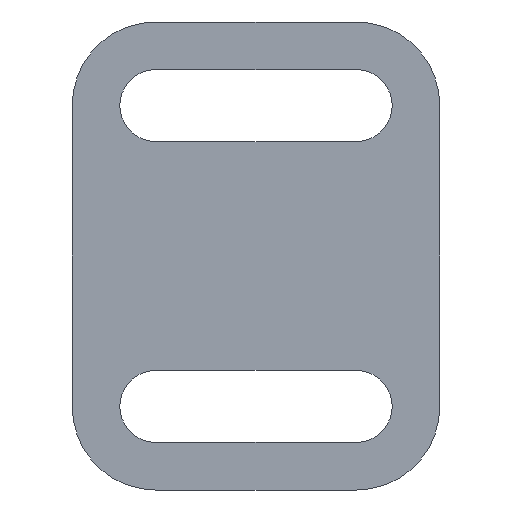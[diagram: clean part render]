
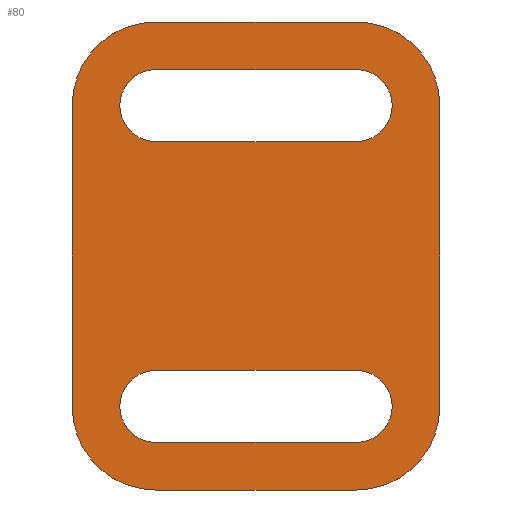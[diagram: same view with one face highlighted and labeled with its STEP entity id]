
A CAD part, front view. The second image highlights one B-rep face of the part: STEP entity #80.
In plain terms, the highlighted planar face has unit normal (0, -1, 0).
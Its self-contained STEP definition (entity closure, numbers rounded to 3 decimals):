
#80 = ADVANCED_FACE( '', ( #117, #118, #119 ), #120, .F. );
#117 = FACE_BOUND( '', #180, .T. );
#118 = FACE_OUTER_BOUND( '', #181, .T. );
#119 = FACE_BOUND( '', #182, .T. );
#120 = PLANE( '', #183 );
#180 = EDGE_LOOP( '', ( #274, #275, #276, #277 ) );
#181 = EDGE_LOOP( '', ( #278, #279, #280, #281, #282, #283, #284, #285 ) );
#182 = EDGE_LOOP( '', ( #286, #287, #288, #289 ) );
#183 = AXIS2_PLACEMENT_3D( '', #290, #291, #292 );
#274 = ORIENTED_EDGE( '', *, *, #481, .T. );
#275 = ORIENTED_EDGE( '', *, *, #482, .T. );
#276 = ORIENTED_EDGE( '', *, *, #483, .T. );
#277 = ORIENTED_EDGE( '', *, *, #484, .T. );
#278 = ORIENTED_EDGE( '', *, *, #485, .F. );
#279 = ORIENTED_EDGE( '', *, *, #486, .F. );
#280 = ORIENTED_EDGE( '', *, *, #487, .F. );
#281 = ORIENTED_EDGE( '', *, *, #488, .F. );
#282 = ORIENTED_EDGE( '', *, *, #489, .F. );
#283 = ORIENTED_EDGE( '', *, *, #490, .F. );
#284 = ORIENTED_EDGE( '', *, *, #467, .F. );
#285 = ORIENTED_EDGE( '', *, *, #491, .F. );
#286 = ORIENTED_EDGE( '', *, *, #492, .T. );
#287 = ORIENTED_EDGE( '', *, *, #493, .T. );
#288 = ORIENTED_EDGE( '', *, *, #494, .T. );
#289 = ORIENTED_EDGE( '', *, *, #495, .T. );
#290 = CARTESIAN_POINT( '', ( 5., 0., -9. ) );
#291 = DIRECTION( '', ( 0., 1., 0. ) );
#292 = DIRECTION( '', ( 0., 0., 1. ) );
#467 = EDGE_CURVE( '', #550, #551, #552, .T. );
#481 = EDGE_CURVE( '', #577, #578, #579, .T. );
#482 = EDGE_CURVE( '', #578, #580, #581, .T. );
#483 = EDGE_CURVE( '', #580, #582, #583, .T. );
#484 = EDGE_CURVE( '', #582, #577, #584, .T. );
#485 = EDGE_CURVE( '', #585, #586, #587, .T. );
#486 = EDGE_CURVE( '', #588, #585, #589, .T. );
#487 = EDGE_CURVE( '', #590, #588, #591, .T. );
#488 = EDGE_CURVE( '', #592, #590, #593, .T. );
#489 = EDGE_CURVE( '', #594, #592, #595, .T. );
#490 = EDGE_CURVE( '', #551, #594, #596, .T. );
#491 = EDGE_CURVE( '', #586, #550, #597, .T. );
#492 = EDGE_CURVE( '', #598, #599, #600, .T. );
#493 = EDGE_CURVE( '', #599, #601, #602, .T. );
#494 = EDGE_CURVE( '', #601, #603, #604, .T. );
#495 = EDGE_CURVE( '', #603, #598, #605, .T. );
#550 = VERTEX_POINT( '', #673 );
#551 = VERTEX_POINT( '', #674 );
#552 = CIRCLE( '', #675, 5. );
#577 = VERTEX_POINT( '', #708 );
#578 = VERTEX_POINT( '', #709 );
#579 = LINE( '', #710, #711 );
#580 = VERTEX_POINT( '', #712 );
#581 = CIRCLE( '', #713, 2.15 );
#582 = VERTEX_POINT( '', #714 );
#583 = LINE( '', #715, #716 );
#584 = CIRCLE( '', #717, 2.15 );
#585 = VERTEX_POINT( '', #718 );
#586 = VERTEX_POINT( '', #719 );
#587 = CIRCLE( '', #720, 5. );
#588 = VERTEX_POINT( '', #721 );
#589 = LINE( '', #722, #723 );
#590 = VERTEX_POINT( '', #724 );
#591 = CIRCLE( '', #725, 5. );
#592 = VERTEX_POINT( '', #726 );
#593 = LINE( '', #727, #728 );
#594 = VERTEX_POINT( '', #729 );
#595 = CIRCLE( '', #730, 5. );
#596 = LINE( '', #731, #732 );
#597 = LINE( '', #733, #734 );
#598 = VERTEX_POINT( '', #735 );
#599 = VERTEX_POINT( '', #736 );
#600 = LINE( '', #737, #738 );
#601 = VERTEX_POINT( '', #739 );
#602 = CIRCLE( '', #740, 2.15 );
#603 = VERTEX_POINT( '', #741 );
#604 = LINE( '', #742, #743 );
#605 = CIRCLE( '', #744, 2.15 );
#673 = CARTESIAN_POINT( '', ( 5., 0., -14. ) );
#674 = CARTESIAN_POINT( '', ( 0., 0., -9. ) );
#675 = AXIS2_PLACEMENT_3D( '', #829, #830, #831 );
#708 = CARTESIAN_POINT( '', ( 17., 0., -11.15 ) );
#709 = CARTESIAN_POINT( '', ( 5., 0., -11.15 ) );
#710 = CARTESIAN_POINT( '', ( 17., 0., -11.15 ) );
#711 = VECTOR( '', #855, 1000. );
#712 = CARTESIAN_POINT( '', ( 5., 0., -6.85 ) );
#713 = AXIS2_PLACEMENT_3D( '', #856, #857, #858 );
#714 = CARTESIAN_POINT( '', ( 17., 0., -6.85 ) );
#715 = CARTESIAN_POINT( '', ( 5., 0., -6.85 ) );
#716 = VECTOR( '', #859, 1000. );
#717 = AXIS2_PLACEMENT_3D( '', #860, #861, #862 );
#718 = CARTESIAN_POINT( '', ( 22., 0., -9. ) );
#719 = CARTESIAN_POINT( '', ( 17., 0., -14. ) );
#720 = AXIS2_PLACEMENT_3D( '', #863, #864, #865 );
#721 = CARTESIAN_POINT( '', ( 22., 0., 9. ) );
#722 = CARTESIAN_POINT( '', ( 22., 0., 9. ) );
#723 = VECTOR( '', #866, 1000. );
#724 = CARTESIAN_POINT( '', ( 17., 0., 14. ) );
#725 = AXIS2_PLACEMENT_3D( '', #867, #868, #869 );
#726 = CARTESIAN_POINT( '', ( 5., 0., 14. ) );
#727 = CARTESIAN_POINT( '', ( 5., 0., 14. ) );
#728 = VECTOR( '', #870, 1000. );
#729 = CARTESIAN_POINT( '', ( 0., 0., 9. ) );
#730 = AXIS2_PLACEMENT_3D( '', #871, #872, #873 );
#731 = CARTESIAN_POINT( '', ( 0., 0., -9. ) );
#732 = VECTOR( '', #874, 1000. );
#733 = CARTESIAN_POINT( '', ( 17., 0., -14. ) );
#734 = VECTOR( '', #875, 1000. );
#735 = CARTESIAN_POINT( '', ( 17., 0., 6.85 ) );
#736 = CARTESIAN_POINT( '', ( 5., 0., 6.85 ) );
#737 = CARTESIAN_POINT( '', ( 17., 0., 6.85 ) );
#738 = VECTOR( '', #876, 1000. );
#739 = CARTESIAN_POINT( '', ( 5., 0., 11.15 ) );
#740 = AXIS2_PLACEMENT_3D( '', #877, #878, #879 );
#741 = CARTESIAN_POINT( '', ( 17., 0., 11.15 ) );
#742 = CARTESIAN_POINT( '', ( 5., 0., 11.15 ) );
#743 = VECTOR( '', #880, 1000. );
#744 = AXIS2_PLACEMENT_3D( '', #881, #882, #883 );
#829 = CARTESIAN_POINT( '', ( 5., 0., -9. ) );
#830 = DIRECTION( '', ( 0., 1., 0. ) );
#831 = DIRECTION( '', ( 1., 0., 0. ) );
#855 = DIRECTION( '', ( -1., 0., 0. ) );
#856 = CARTESIAN_POINT( '', ( 5., 0., -9. ) );
#857 = DIRECTION( '', ( 0., 1., 0. ) );
#858 = DIRECTION( '', ( 1., 0., 0. ) );
#859 = DIRECTION( '', ( 1., 0., 0. ) );
#860 = CARTESIAN_POINT( '', ( 17., 0., -9. ) );
#861 = DIRECTION( '', ( 0., 1., 0. ) );
#862 = DIRECTION( '', ( 1., 0., 0. ) );
#863 = CARTESIAN_POINT( '', ( 17., 0., -9. ) );
#864 = DIRECTION( '', ( 0., 1., 0. ) );
#865 = DIRECTION( '', ( 1., 0., 0. ) );
#866 = DIRECTION( '', ( 0., 0., -1. ) );
#867 = CARTESIAN_POINT( '', ( 17., 0., 9. ) );
#868 = DIRECTION( '', ( 0., 1., 0. ) );
#869 = DIRECTION( '', ( 1., 0., 0. ) );
#870 = DIRECTION( '', ( 1., 0., 0. ) );
#871 = CARTESIAN_POINT( '', ( 5., 0., 9. ) );
#872 = DIRECTION( '', ( 0., 1., 0. ) );
#873 = DIRECTION( '', ( 1., 0., 0. ) );
#874 = DIRECTION( '', ( 0., 0., 1. ) );
#875 = DIRECTION( '', ( -1., 0., 0. ) );
#876 = DIRECTION( '', ( -1., 0., 0. ) );
#877 = CARTESIAN_POINT( '', ( 5., 0., 9. ) );
#878 = DIRECTION( '', ( 0., 1., 0. ) );
#879 = DIRECTION( '', ( 1., 0., 0. ) );
#880 = DIRECTION( '', ( 1., 0., 0. ) );
#881 = CARTESIAN_POINT( '', ( 17., 0., 9. ) );
#882 = DIRECTION( '', ( 0., 1., 0. ) );
#883 = DIRECTION( '', ( 1., 0., 0. ) );
